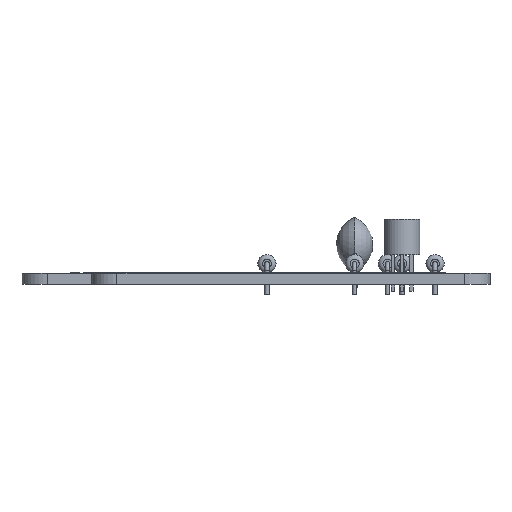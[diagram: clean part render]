
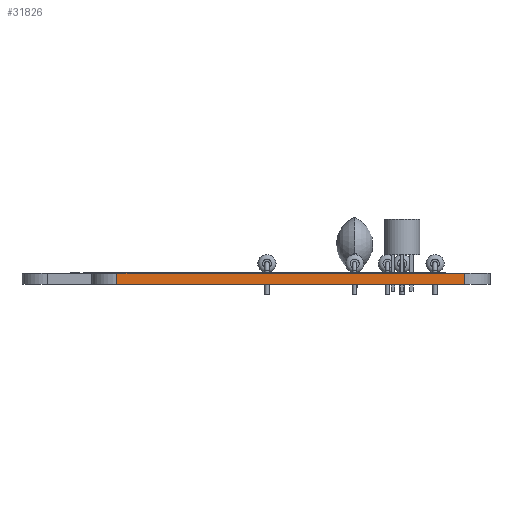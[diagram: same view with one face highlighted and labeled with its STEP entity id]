
A CAD part, left-side view. The second image highlights one B-rep face of the part: STEP entity #31826.
In plain terms, the highlighted planar face has unit normal (-1, 0.001, 0).
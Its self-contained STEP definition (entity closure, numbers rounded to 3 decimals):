
#29847 = VERTEX_POINT('',#29848);
#29848 = CARTESIAN_POINT('',(150.,-102.975,0.));
#29855 = EDGE_CURVE('',#29856,#29847,#29858,.T.);
#29856 = VERTEX_POINT('',#29857);
#29857 = CARTESIAN_POINT('',(149.975,-150.525,0.));
#29858 = LINE('',#29859,#29860);
#29859 = CARTESIAN_POINT('',(149.975,-150.525,0.));
#29860 = VECTOR('',#29861,1.);
#29861 = DIRECTION('',(0.001,1.,0.));
#30793 = VERTEX_POINT('',#30794);
#30794 = CARTESIAN_POINT('',(150.,-102.975,1.51));
#30801 = EDGE_CURVE('',#30802,#30793,#30804,.T.);
#30802 = VERTEX_POINT('',#30803);
#30803 = CARTESIAN_POINT('',(149.975,-150.525,1.51));
#30804 = LINE('',#30805,#30806);
#30805 = CARTESIAN_POINT('',(149.975,-150.525,1.51));
#30806 = VECTOR('',#30807,1.);
#30807 = DIRECTION('',(0.001,1.,0.));
#31798 = EDGE_CURVE('',#29856,#30802,#31799,.T.);
#31799 = LINE('',#31800,#31801);
#31800 = CARTESIAN_POINT('',(149.975,-150.525,0.));
#31801 = VECTOR('',#31802,1.);
#31802 = DIRECTION('',(0.,0.,1.));
#31813 = EDGE_CURVE('',#29847,#30793,#31814,.T.);
#31814 = LINE('',#31815,#31816);
#31815 = CARTESIAN_POINT('',(150.,-102.975,0.));
#31816 = VECTOR('',#31817,1.);
#31817 = DIRECTION('',(0.,0.,1.));
#31826 = ADVANCED_FACE('',(#31827),#31833,.T.);
#31827 = FACE_BOUND('',#31828,.T.);
#31828 = EDGE_LOOP('',(#31829,#31830,#31831,#31832));
#31829 = ORIENTED_EDGE('',*,*,#31798,.T.);
#31830 = ORIENTED_EDGE('',*,*,#30801,.T.);
#31831 = ORIENTED_EDGE('',*,*,#31813,.F.);
#31832 = ORIENTED_EDGE('',*,*,#29855,.F.);
#31833 = PLANE('',#31834);
#31834 = AXIS2_PLACEMENT_3D('',#31835,#31836,#31837);
#31835 = CARTESIAN_POINT('',(149.975,-150.525,0.));
#31836 = DIRECTION('',(-1.,0.001,0.));
#31837 = DIRECTION('',(0.001,1.,0.));
